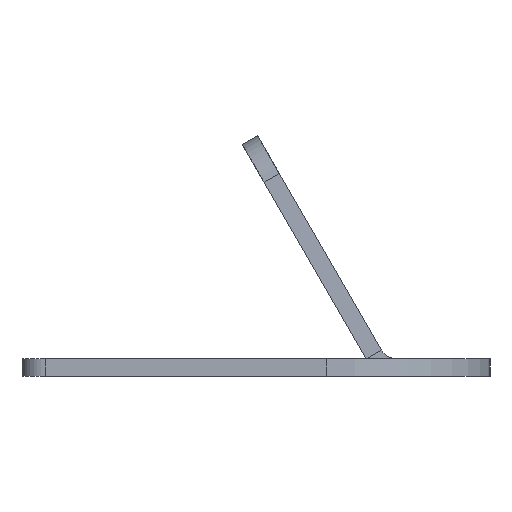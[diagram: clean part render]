
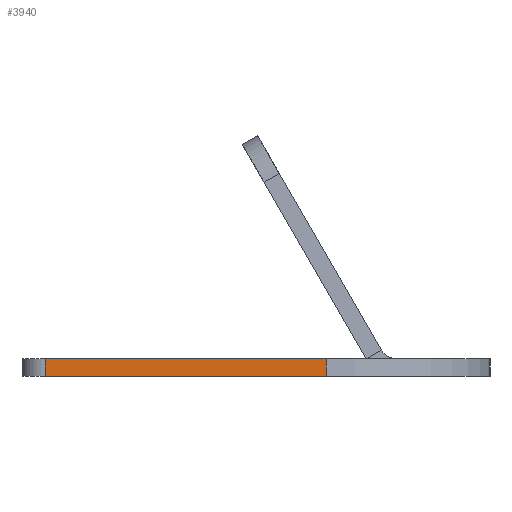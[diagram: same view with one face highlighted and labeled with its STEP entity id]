
A CAD part, left-side view. The second image highlights one B-rep face of the part: STEP entity #3940.
In plain terms, the highlighted planar face has unit normal (-1, 0, 0).
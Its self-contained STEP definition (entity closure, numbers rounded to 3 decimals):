
#342=DIRECTION('',(0.,1.,0.));
#343=VECTOR('',#342,24.);
#344=CARTESIAN_POINT('',(-175.,-6.,0.));
#345=LINE('',#344,#343);
#581=DIRECTION('',(0.,1.,0.));
#582=VECTOR('',#581,24.);
#583=CARTESIAN_POINT('',(-175.,-6.,-1.5));
#584=LINE('',#583,#582);
#1543=DIRECTION('',(0.,0.,1.));
#1544=VECTOR('',#1543,1.5);
#1545=CARTESIAN_POINT('',(-175.,-6.,-1.5));
#1546=LINE('',#1545,#1544);
#1547=DIRECTION('',(0.,0.,1.));
#1548=VECTOR('',#1547,1.5);
#1549=CARTESIAN_POINT('',(-175.,18.,-1.5));
#1550=LINE('',#1549,#1548);
#1877=CARTESIAN_POINT('',(-175.,-6.,0.));
#1879=VERTEX_POINT('',#1877);
#1883=CARTESIAN_POINT('',(-175.,-6.,-1.5));
#1884=VERTEX_POINT('',#1883);
#1902=CARTESIAN_POINT('',(-175.,18.,0.));
#1904=VERTEX_POINT('',#1902);
#1905=CARTESIAN_POINT('',(-175.,18.,-1.5));
#1906=VERTEX_POINT('',#1905);
#3929=CARTESIAN_POINT('',(-175.,0.,-0.75));
#3930=DIRECTION('',(1.,0.,0.));
#3931=DIRECTION('',(0.,1.,0.));
#3932=AXIS2_PLACEMENT_3D('',#3929,#3930,#3931);
#3933=PLANE('',#3932);
#3934=ORIENTED_EDGE('',*,*,#3846,.F.);
#3935=ORIENTED_EDGE('',*,*,#2167,.T.);
#3936=ORIENTED_EDGE('',*,*,#3922,.T.);
#3937=ORIENTED_EDGE('',*,*,#1932,.F.);
#3938=EDGE_LOOP('',(#3934,#3935,#3936,#3937));
#3939=FACE_OUTER_BOUND('',#3938,.F.);
#1932=EDGE_CURVE('',#1879,#1904,#345,.T.);
#2167=EDGE_CURVE('',#1884,#1906,#584,.T.);
#3846=EDGE_CURVE('',#1884,#1879,#1546,.T.);
#3922=EDGE_CURVE('',#1906,#1904,#1550,.T.);
#3940=ADVANCED_FACE('',(#3939),#3933,.F.);
